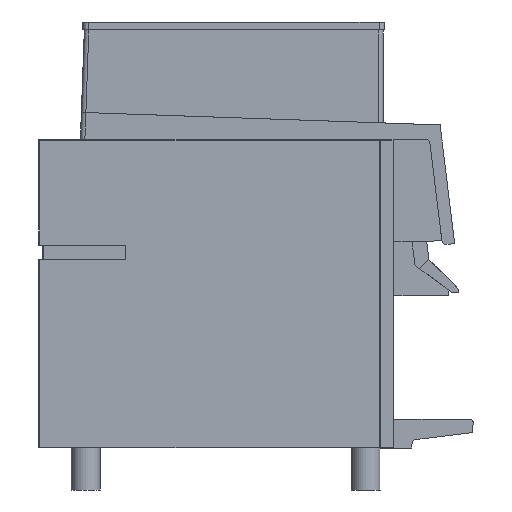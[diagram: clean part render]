
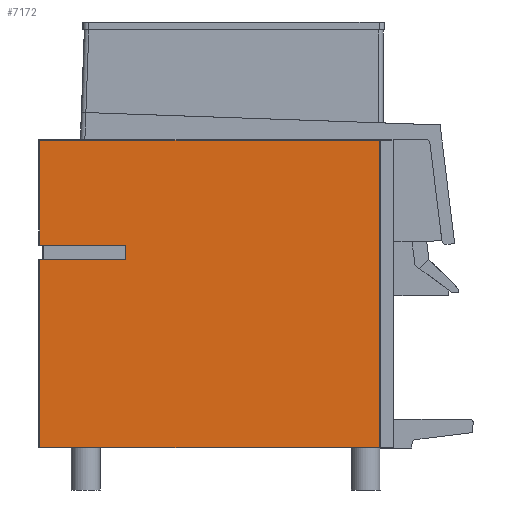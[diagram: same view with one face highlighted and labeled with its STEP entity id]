
A CAD part, left-side view. The second image highlights one B-rep face of the part: STEP entity #7172.
In plain terms, the highlighted planar face has unit normal (-1, 0, 0).
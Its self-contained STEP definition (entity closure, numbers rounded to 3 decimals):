
#739=ORIENTED_EDGE('',*,*,#2139,.F.);
#740=ORIENTED_EDGE('',*,*,#2204,.T.);
#741=ORIENTED_EDGE('',*,*,#2205,.T.);
#742=ORIENTED_EDGE('',*,*,#2206,.T.);
#743=ORIENTED_EDGE('',*,*,#2207,.F.);
#744=ORIENTED_EDGE('',*,*,#2208,.F.);
#745=ORIENTED_EDGE('',*,*,#2209,.F.);
#746=ORIENTED_EDGE('',*,*,#2210,.T.);
#747=ORIENTED_EDGE('',*,*,#2211,.T.);
#748=ORIENTED_EDGE('',*,*,#2212,.T.);
#2139=EDGE_CURVE('',#2859,#2860,#3330,.T.);
#2204=EDGE_CURVE('',#2859,#2903,#3383,.T.);
#2205=EDGE_CURVE('',#2903,#2904,#3384,.F.);
#2206=EDGE_CURVE('',#2904,#2905,#3385,.F.);
#2207=EDGE_CURVE('',#2906,#2905,#3386,.T.);
#2208=EDGE_CURVE('',#2907,#2906,#3387,.T.);
#2209=EDGE_CURVE('',#2908,#2907,#3388,.T.);
#2210=EDGE_CURVE('',#2908,#2909,#3389,.T.);
#2211=EDGE_CURVE('',#2909,#2910,#3390,.T.);
#2212=EDGE_CURVE('',#2910,#2860,#3391,.F.);
#2859=VERTEX_POINT('',#9972);
#2860=VERTEX_POINT('',#9974);
#2903=VERTEX_POINT('',#10097);
#2904=VERTEX_POINT('',#10099);
#2905=VERTEX_POINT('',#10101);
#2906=VERTEX_POINT('',#10103);
#2907=VERTEX_POINT('',#10105);
#2908=VERTEX_POINT('',#10107);
#2909=VERTEX_POINT('',#10109);
#2910=VERTEX_POINT('',#10111);
#3330=LINE('',#9973,#3936);
#3383=LINE('',#10096,#3989);
#3384=LINE('',#10098,#3990);
#3385=LINE('',#10100,#3991);
#3386=LINE('',#10102,#3992);
#3387=LINE('',#10104,#3993);
#3388=LINE('',#10106,#3994);
#3389=LINE('',#10108,#3995);
#3390=LINE('',#10110,#3996);
#3391=LINE('',#10112,#3997);
#3936=VECTOR('',#8331,1000.);
#3989=VECTOR('',#8438,1000.);
#3990=VECTOR('',#8439,1000.);
#3991=VECTOR('',#8440,1000.);
#3992=VECTOR('',#8441,1000.);
#3993=VECTOR('',#8442,1000.);
#3994=VECTOR('',#8443,1000.);
#3995=VECTOR('',#8444,1000.);
#3996=VECTOR('',#8445,1000.);
#3997=VECTOR('',#8446,1000.);
#4375=EDGE_LOOP('',(#739,#740,#741,#742,#743,#744,#745,#746,#747,#748));
#4678=FACE_BOUND('',#4375,.T.);
#4961=PLANE('',#7547);
#7172=ADVANCED_FACE('',(#4678),#4961,.F.);
#7547=AXIS2_PLACEMENT_3D('',#10095,#8436,#8437);
#8331=DIRECTION('',(0.,1.,0.));
#8436=DIRECTION('',(1.,0.,0.));
#8437=DIRECTION('',(0.,1.,0.));
#8438=DIRECTION('',(0.,0.,1.));
#8439=DIRECTION('',(0.,-1.,0.));
#8440=DIRECTION('',(0.,0.,1.));
#8441=DIRECTION('',(0.,1.,0.));
#8442=DIRECTION('',(0.,1.,0.));
#8443=DIRECTION('',(0.,0.,1.));
#8444=DIRECTION('',(0.,1.,0.));
#8445=DIRECTION('',(0.,1.,0.));
#8446=DIRECTION('',(0.,0.,1.));
#9972=CARTESIAN_POINT('',(-394.,-470.,0.));
#9973=CARTESIAN_POINT('',(-394.,-490.,0.));
#9974=CARTESIAN_POINT('',(-394.,-1.2,0.));
#10095=CARTESIAN_POINT('',(-394.,0.,0.));
#10096=CARTESIAN_POINT('',(-394.,-470.,420.5));
#10097=CARTESIAN_POINT('',(-394.,-470.,424.8));
#10098=CARTESIAN_POINT('',(-394.,0.,424.8));
#10099=CARTESIAN_POINT('',(-394.,-1.2,424.8));
#10100=CARTESIAN_POINT('',(-394.,-1.2,0.));
#10101=CARTESIAN_POINT('',(-394.,-1.2,280.));
#10102=CARTESIAN_POINT('',(-394.,-5.,280.));
#10103=CARTESIAN_POINT('',(-394.,-5.133,280.));
#10104=CARTESIAN_POINT('',(-394.,-120.,280.));
#10105=CARTESIAN_POINT('',(-394.,-120.,280.));
#10106=CARTESIAN_POINT('',(-394.,-120.,260.));
#10107=CARTESIAN_POINT('',(-394.,-120.,260.));
#10108=CARTESIAN_POINT('',(-394.,-120.,260.));
#10109=CARTESIAN_POINT('',(-394.,-5.133,260.));
#10110=CARTESIAN_POINT('',(-394.,-5.,260.));
#10111=CARTESIAN_POINT('',(-394.,-1.2,260.));
#10112=CARTESIAN_POINT('',(-394.,-1.2,0.));
